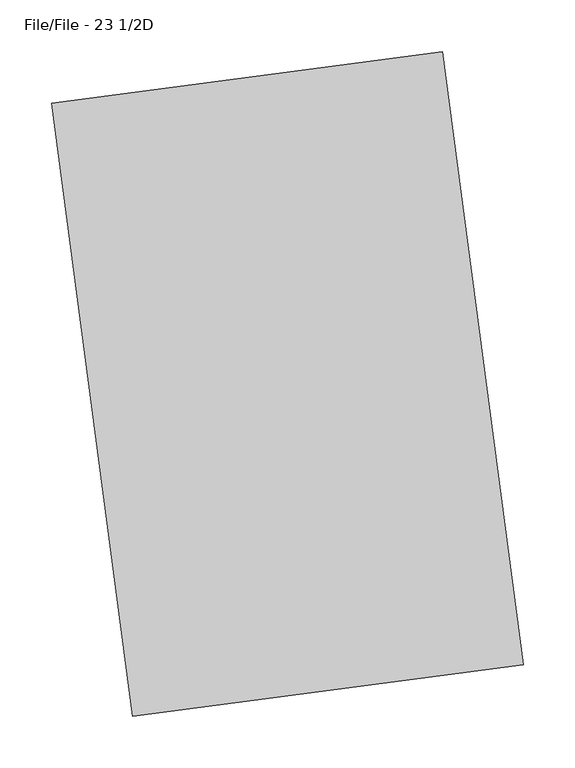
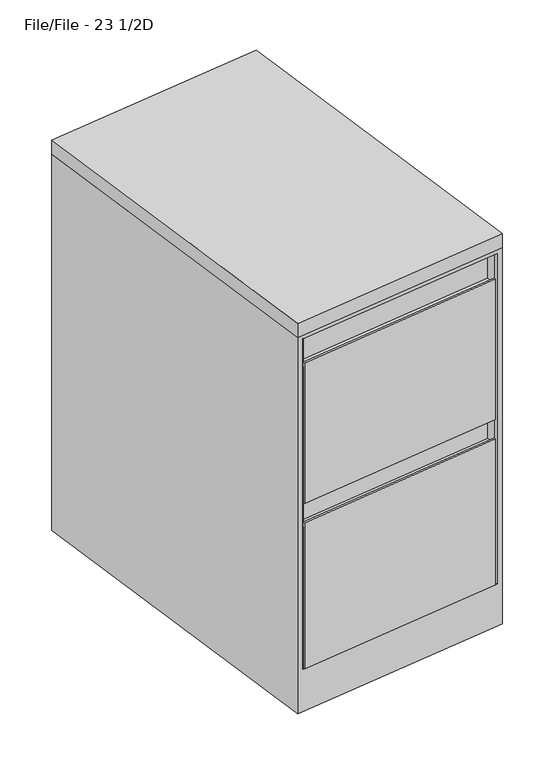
"""IFC4 building model written with IfcOpenShell, lengths in millimetres: furniture geometry, Steelcase - Universal Storage - Mobile Pedestal - Flush Steel : File/File - 23 1/2D."""

from ifc_helpers import new_model, si_unit, point, frame, frame_2d, origin, place, context, project, spatial, polyline, circle_curve, trimmed, segment, composite_curve, outline, extrude, faceted_brep, source, transform, mapped, element, save


def file_file_23_1_2d_fd77a94c(model_context):
    return source(origin(), model_context, "Body", "SolidModel", [
        extrude(outline(polyline([(377.7311592, 49.8013183), (0.0, 0.0), (-78.0220654, 591.7788162), (299.7090938, 641.5801345), (377.7311592, 49.8013183)])), frame((0.0, 0.0, 685.8), z_axis=(0.0, 0.0, 1.0), x_axis=(1.0, 0.0, 0.0)), (0.0, 0.0, 1.0), 25.4),
        extrude(outline(composite_curve([segment(trimmed(circle_curve(frame_2d((0.0, -31.75)), 31.75), [point((0.0, -63.5))], [point((0.0, 0.0))], False, "CARTESIAN"), True, "CONTINUOUS"), segment(trimmed(circle_curve(frame_2d((0.0, -31.75)), 31.75), [point((0.0, 0.0))], [point((0.0, -63.5))], False, "CARTESIAN"), True, "CONTINUOUS")], self_intersect=False)), frame((252.7702674, 616.3034404, 31.75), z_axis=(0.9914203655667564, 0.13071212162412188, 0.0), x_axis=(0.0, 0.0, -1.0)), (0.0, 0.0, 1.0), 38.1),
        extrude(outline(composite_curve([segment(trimmed(circle_curve(frame_2d((0.0, -31.75)), 31.75), [point((0.0, -63.5))], [point((0.0, 0.0))], False, "CARTESIAN"), True, "CONTINUOUS"), segment(trimmed(circle_curve(frame_2d((0.0, -31.75)), 31.75), [point((0.0, 0.0))], [point((0.0, -63.5))], False, "CARTESIAN"), True, "CONTINUOUS")], self_intersect=False)), frame((-63.8843107, 574.3371216, 31.75), z_axis=(0.9914203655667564, 0.13071212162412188, 0.0), x_axis=(0.0, 0.0, -1.0)), (0.0, 0.0, 1.0), 38.1),
        extrude(outline(composite_curve([segment(trimmed(circle_curve(frame_2d((0.0, -31.75)), 31.75), [point((0.0, -63.5))], [point((0.0, 0.0))], False, "CARTESIAN"), True, "CONTINUOUS"), segment(trimmed(circle_curve(frame_2d((0.0, -31.75)), 31.75), [point((0.0, 0.0))], [point((0.0, -63.5))], False, "CARTESIAN"), True, "CONTINUOUS")], self_intersect=False)), frame((317.5119829, 125.2529213, 31.75), z_axis=(0.9914203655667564, 0.13071212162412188, 0.0), x_axis=(0.0, 0.0, -1.0)), (0.0, 0.0, 1.0), 38.1),
        extrude(outline(composite_curve([segment(trimmed(circle_curve(frame_2d((0.0, -31.75)), 31.75), [point((0.0, -63.5))], [point((0.0, 0.0))], False, "CARTESIAN"), True, "CONTINUOUS"), segment(trimmed(circle_curve(frame_2d((0.0, -31.75)), 31.75), [point((0.0, 0.0))], [point((0.0, -63.5))], False, "CARTESIAN"), True, "CONTINUOUS")], self_intersect=False)), frame((0.8565804, 83.5040316, 31.75), z_axis=(0.9914203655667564, 0.13071212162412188, 0.0), x_axis=(0.0, 0.0, -1.0)), (0.0, 0.0, 1.0), 38.1),
        extrude(outline(polyline([(364.8325558, 51.3029701), (12.2838426, 4.8217882), (10.2087876, 20.560587), (362.7575008, 67.0417688), (364.8325558, 51.3029701)])), frame((0.0, 0.0, 82.5919123), z_axis=(0.0, 0.0, 1.0), x_axis=(1.0, 0.0, 0.0)), (0.0, 0.0, 1.0), 254.000003),
        extrude(outline(polyline([(365.2474805, 48.1558644), (12.6987674, 1.6746826), (12.2838426, 4.8217882), (364.8325558, 51.3029701), (365.2474805, 48.1558644)])), frame((0.0, 0.0, 82.5919123), z_axis=(0.0, 0.0, 1.0), x_axis=(1.0, 0.0, 0.0)), (0.0, 0.0, 1.0), 263.524997),
        extrude(outline(polyline([(364.8325558, 51.3029701), (12.2838426, 4.8217882), (10.2087876, 20.560587), (362.7575008, 67.0417688), (364.8325558, 51.3029701)])), frame((0.0, 0.0, 380.9149214), z_axis=(0.0, 0.0, 1.0), x_axis=(1.0, 0.0, 0.0)), (0.0, 0.0, 1.0), 244.6019879),
        extrude(outline(polyline([(365.2475369, 48.1554365), (12.6988238, 1.6742547), (12.2838426, 4.8217882), (364.8325558, 51.3029701), (365.2475369, 48.1554365)])), frame((0.0, 0.0, 380.9149214), z_axis=(0.0, 0.0, 1.0), x_axis=(1.0, 0.0, 0.0)), (0.0, 0.0, 1.0), 254.0),
        faceted_brep([(299.7090938, 641.5801345, 685.8), (377.7311592, 49.8013183, 685.8), (377.7311592, 49.8013183, 6.35), (299.7090938, 641.5801345, 6.35), (-78.0220654, 591.7788162, 685.8), (-78.0220654, 591.7788162, 6.35), (0.0, 0.0, 6.35), (0.0, 0.0, 685.8), (368.3957391, 48.5705058, 679.45), (368.3957391, 48.5705058, 82.5919123), (9.5512903, 1.2592735, 82.5919123), (9.5512903, 1.2592735, 679.45), (12.2838426, 4.8217882, 679.45), (10.2087876, 20.560587, 679.45), (362.7567941, 67.0416757, 679.45), (364.8324685, 51.3036321, 679.45), (10.2087876, 20.560587, 82.5919123), (362.7567941, 67.0416757, 82.5919123), (12.2838426, 4.8217882, 82.5919123), (364.8324685, 51.3036321, 82.5919123)], [[[0, 1, 2, 3]], [[4, 5, 6, 7]], [[1, 0, 4, 7]], [[2, 1, 7, 6], [8, 9, 10, 11]], [[8, 11, 12, 13, 14, 15]], [[14, 13, 16, 17]], [[17, 16, 18, 10, 9, 19]], [[3, 2, 6, 5]], [[0, 3, 5, 4]], [[11, 10, 18, 12]], [[12, 18, 16, 13]], [[19, 15, 14, 17]], [[15, 19, 9, 8]]]),
    ])


if __name__ == "__main__":
    model = new_model("IFC4")
    model_context = context("Model", 3, world=origin())
    ifc_project = project(units=[si_unit("LENGTHUNIT", "METRE", prefix="MILLI")], contexts=[model_context])
    site = spatial("IfcSite", under=ifc_project)
    building = spatial("IfcBuilding", under=site)
    placement = place(None, origin())
    file_file_23_1_2d_shape = file_file_23_1_2d_fd77a94c(model_context)
    element("IfcFurniture", 1, ObjectType="Steelcase - Universal Storage - Mobile Pedestal - Flush Steel : File/File - 23 1/2D", at=placement, inside=building, context=model_context, shape_type="MappedRepresentation", body=[
        mapped(file_file_23_1_2d_shape, transform((0.0, 0.0, 0.0), x_axis=(1.0, 0.0, 0.0), y_axis=(0.0, 1.0, 0.0), z_axis=(0.0, 0.0, 1.0))),
    ])
    save(model, "model.ifc")
